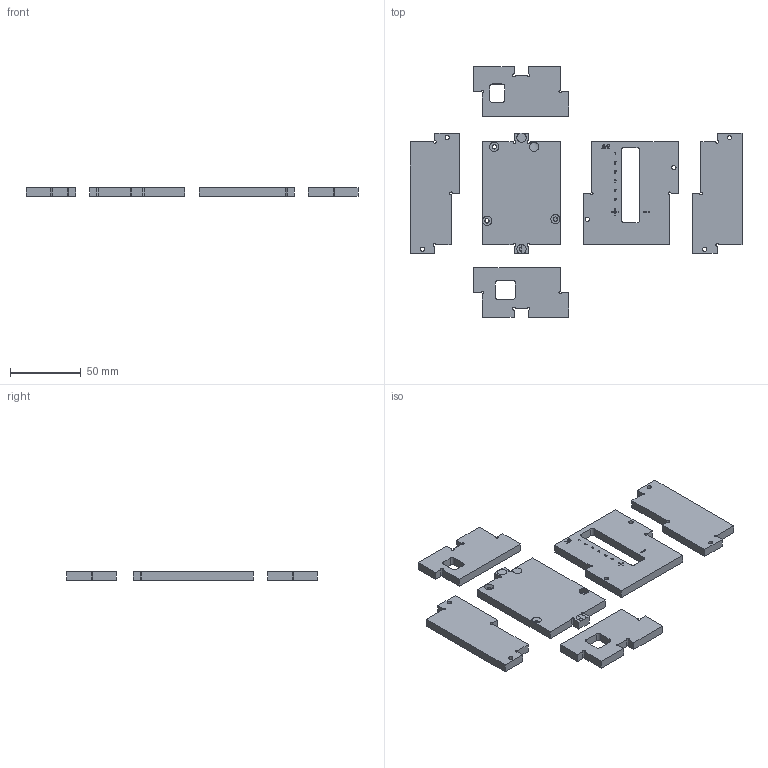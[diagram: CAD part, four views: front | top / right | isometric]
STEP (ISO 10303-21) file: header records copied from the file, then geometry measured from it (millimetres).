
FILE_DESCRIPTION(/* description */ (''),/* implementation_level */ '2;1');
FILE_NAME(/* name */ '/Users/leslieshaw/Desktop/arduino_controller_cut.step',/* time_stamp */ '2020-03-24T11:23:24-07:00',/* author */ (''),/* organization */ (''),/* preprocessor_version */ 'ST-DEVELOPER v18',/* originating_system */ 'Autodesk Translation Framework v8.12.0.6',/* authorisation */ '');
FILE_SCHEMA (('AUTOMOTIVE_DESIGN { 1 0 10303 214 3 1 1 }'));
Products named in the file (1): arduino_controller_cut
Bounding box: 234 x 176.65 x 6 mm (x, y, z)
Volume: 99622.4 mm3; surface area: 44436.6 mm2
Topology: 6 solids, 6 shells, 596 faces, 1628 edges, 1086 vertices
Faces by surface type: bspline 330, plane 161, cylinder 99, cone 6
Full cylindrical faces by diameter (mm): 3 x12
Entity records: 93326 total; most frequent: CARTESIAN_POINT 80540, ORIENTED_EDGE 3256, EDGE_CURVE 1628, DIRECTION 1540, VERTEX_POINT 1086, LINE 804, VECTOR 804, B_SPLINE_CURVE_WITH_KNOTS 720
